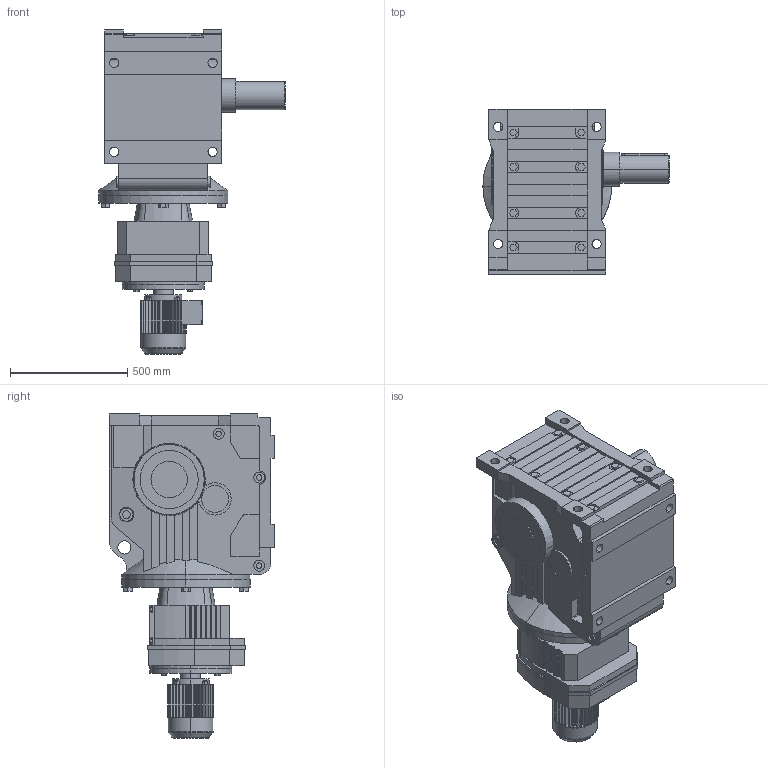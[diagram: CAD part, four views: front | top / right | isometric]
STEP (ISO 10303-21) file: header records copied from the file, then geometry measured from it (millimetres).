
FILE_DESCRIPTION(('Open CASCADE Model'),'2;1');
FILE_NAME('Open CASCADE Shape Model','2021-07-24T16:20:12',('Author'),( 'Open CASCADE'),'Open CASCADE STEP processor 6.3','Open CASCADE 6.3' ,'Unknown');
FILE_SCHEMA(('AUTOMOTIVE_DESIGN_CC2 { 1 2 10303 214 -1 1 5 4 }'));
Length unit declared in the file: millimetre
Products named in the file (5): 1_K157R107DV100M-A; K37‵157_157.step; 萇儂_350-DV100M-295-380-197-166.step; R_157_107.step; す瑩妗陑粣K_157.step
Assembly tree (4 placements, depth 2):
  1_K157R107DV100M-A
    K37‵157_157.step
    萇儂_350-DV100M-295-380-197-166.step
    R_157_107.step
    す瑩妗陑粣K_157.step
Bounding box: 795 x 705 x 1383 mm (x, y, z)
Volume: 241399723.6 mm3; surface area: 5140830.9 mm2
Topology: 4 solids, 4 shells, 1081 faces, 2869 edges, 1873 vertices
Faces by surface type: plane 772, cylinder 278, cone 23, torus 8
Entity records: 74694 total; most frequent: CARTESIAN_POINT 19777, DIRECTION 9538, ORIENTED_EDGE 5734, PCURVE 5734, DEFINITIONAL_REPRESENTATION 5734, LINE 5474, VECTOR 5474, EDGE_CURVE 2867
